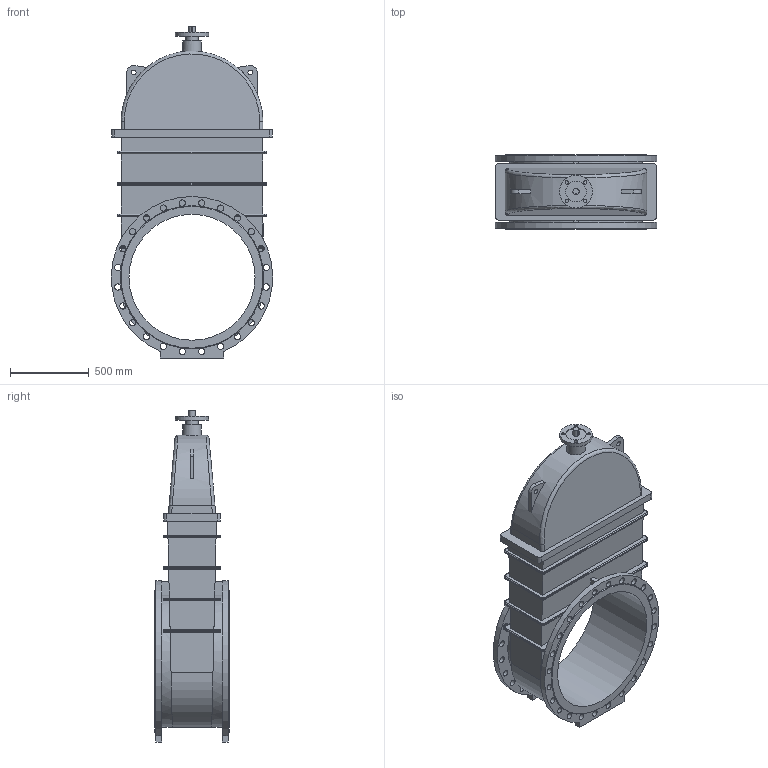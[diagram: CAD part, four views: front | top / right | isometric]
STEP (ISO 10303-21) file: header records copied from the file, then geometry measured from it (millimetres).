
FILE_DESCRIPTION(('STEP AP203'), '1');
FILE_NAME('Çàäâèæêà 47GVA.Z DN800 PN10_PN16 áåç èñïîëíèò. ìåõ.', '', ('UNSPECIFIED'), ('UNSPECIFIED'), 'ASCON STEP Converter 1.6', 'ASCON Math Kernel', '');
FILE_SCHEMA(('CONFIG_CONTROL_DESIGN'));
Length unit declared in the file: millimetre
Bounding box: 1024.56 x 470 x 2107.5 mm (x, y, z)
Volume: 329234951.9 mm3; surface area: 7088299.7 mm2
Topology: 1 solids, 1 shells, 288 faces, 728 edges, 462 vertices
Faces by surface type: cylinder 141, plane 111, bspline 34, cone 2
Full cylindrical faces by diameter (mm): 22 x4, 30 x2, 40 x49, 80 x1, 120 x1, 130 x1, 210 x1, 800 x1
Entity records: 14676 total; most frequent: CARTESIAN_POINT 5667, ORIENTED_EDGE 1332, DIRECTION 1289, EDGE_CURVE 666, AXIS2_PLACEMENT_3D 483, EDGE_LOOP 480, VERTEX_POINT 462, FACE_BOUND 357
